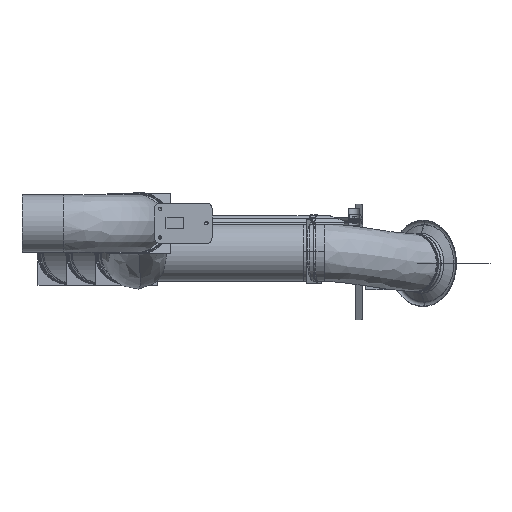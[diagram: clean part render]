
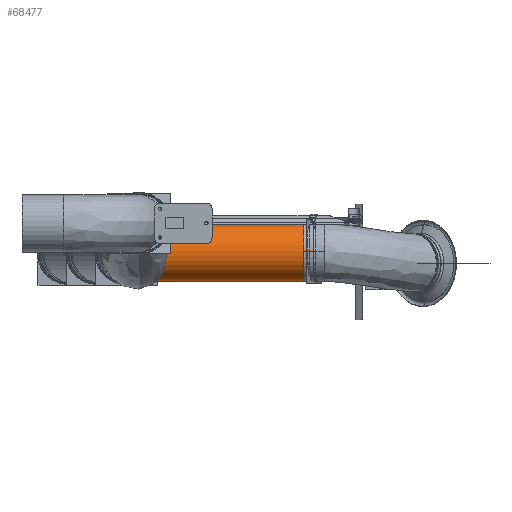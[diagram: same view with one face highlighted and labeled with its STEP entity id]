
A CAD part, left-side view. The second image highlights one B-rep face of the part: STEP entity #68477.
In plain terms, the highlighted free-form (B-spline) face has degree [3, 3] with [7, 6] control points.
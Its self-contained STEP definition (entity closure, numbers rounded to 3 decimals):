
#67454=CARTESIAN_POINT('',(1152.215,-562.358,-97.));
#67455=DIRECTION('',(0.,1.,0.));
#67456=DIRECTION('',(-0.051,0.,-0.999));
#67457=AXIS2_PLACEMENT_3D('',#67454,#67455,#67456);
#67462=CARTESIAN_POINT('',(1147.068,-562.358,
-196.867));
#67463=CARTESIAN_POINT('',(1147.068,-485.691,
-196.867));
#67464=CARTESIAN_POINT('',(1147.068,-332.358,
-196.867));
#67465=CARTESIAN_POINT('',(1147.068,-102.358,
-196.867));
#67466=CARTESIAN_POINT('',(1147.068,50.975,
-196.867));
#67467=CARTESIAN_POINT('',(1147.068,127.642,
-196.867));
#67480=CARTESIAN_POINT('',(1157.361,-562.358,
2.867));
#67481=CARTESIAN_POINT('',(1157.361,-485.691,
2.867));
#67482=CARTESIAN_POINT('',(1157.361,-332.358,
2.867));
#67483=CARTESIAN_POINT('',(1157.361,-102.358,
2.867));
#67484=CARTESIAN_POINT('',(1157.361,50.975,2.867));
#67485=CARTESIAN_POINT('',(1157.361,127.642,2.867));
#67562=CARTESIAN_POINT('',(1152.215,127.642,-97.));
#67563=DIRECTION('',(0.,1.,0.));
#67564=DIRECTION('',(-0.051,0.,-0.999));
#67565=AXIS2_PLACEMENT_3D('',#67562,#67563,#67564);
#68102=CARTESIAN_POINT('',(1157.361,-562.358,
2.867));
#68103=CARTESIAN_POINT('',(1147.068,-562.358,
-196.867));
#68104=VERTEX_POINT('',#68102);
#68105=VERTEX_POINT('',#68103);
#68106=CARTESIAN_POINT('',(1157.361,127.642,2.867));
#68107=CARTESIAN_POINT('',(1147.068,127.642,
-196.867));
#68108=VERTEX_POINT('',#68106);
#68109=VERTEX_POINT('',#68107);
#68425=CARTESIAN_POINT('',(1153.349,-576.158,
-196.994));
#68426=CARTESIAN_POINT('',(1153.349,-571.558,
-196.994));
#68427=CARTESIAN_POINT('',(1153.349,-336.958,
-196.994));
#68428=CARTESIAN_POINT('',(1153.349,-97.758,
-196.994));
#68429=CARTESIAN_POINT('',(1153.349,136.842,
-196.994));
#68430=CARTESIAN_POINT('',(1153.349,141.442,
-196.994));
#68431=CARTESIAN_POINT('',(1091.813,-576.158,
-197.692));
#68432=CARTESIAN_POINT('',(1091.813,-571.558,
-197.692));
#68433=CARTESIAN_POINT('',(1091.813,-336.958,
-197.692));
#68434=CARTESIAN_POINT('',(1091.813,-97.758,
-197.692));
#68435=CARTESIAN_POINT('',(1091.813,136.842,
-197.692));
#68436=CARTESIAN_POINT('',(1091.813,141.442,
-197.692));
#68437=CARTESIAN_POINT('',(1049.18,-576.158,
-153.312));
#68438=CARTESIAN_POINT('',(1049.18,-571.558,
-153.312));
#68439=CARTESIAN_POINT('',(1049.18,-336.958,
-153.312));
#68440=CARTESIAN_POINT('',(1049.18,-97.758,
-153.312));
#68441=CARTESIAN_POINT('',(1049.18,136.842,
-153.312));
#68442=CARTESIAN_POINT('',(1049.18,141.442,
-153.312));
#68443=CARTESIAN_POINT('',(1052.347,-576.158,
-91.854));
#68444=CARTESIAN_POINT('',(1052.347,-571.558,
-91.854));
#68445=CARTESIAN_POINT('',(1052.347,-336.958,
-91.854));
#68446=CARTESIAN_POINT('',(1052.347,-97.758,
-91.854));
#68447=CARTESIAN_POINT('',(1052.347,136.842,
-91.854));
#68448=CARTESIAN_POINT('',(1052.347,141.442,
-91.854));
#68449=CARTESIAN_POINT('',(1055.514,-576.158,
-30.395));
#68450=CARTESIAN_POINT('',(1055.514,-571.558,
-30.395));
#68451=CARTESIAN_POINT('',(1055.514,-336.958,
-30.395));
#68452=CARTESIAN_POINT('',(1055.514,-97.758,
-30.395));
#68453=CARTESIAN_POINT('',(1055.514,136.842,
-30.395));
#68454=CARTESIAN_POINT('',(1055.514,141.442,
-30.395));
#68455=CARTESIAN_POINT('',(1102.483,-576.158,
9.367));
#68456=CARTESIAN_POINT('',(1102.483,-571.558,
9.367));
#68457=CARTESIAN_POINT('',(1102.483,-336.958,
9.367));
#68458=CARTESIAN_POINT('',(1102.483,-97.758,
9.367));
#68459=CARTESIAN_POINT('',(1102.483,136.842,9.367));
#68460=CARTESIAN_POINT('',(1102.483,141.442,9.367));
#68461=CARTESIAN_POINT('',(1163.622,-576.158,
2.347));
#68462=CARTESIAN_POINT('',(1163.622,-571.558,
2.347));
#68463=CARTESIAN_POINT('',(1163.622,-336.958,
2.347));
#68464=CARTESIAN_POINT('',(1163.622,-97.758,
2.347));
#68465=CARTESIAN_POINT('',(1163.622,136.842,2.347));
#68466=CARTESIAN_POINT('',(1163.622,141.442,2.347));
#68467=(BOUNDED_SURFACE()B_SPLINE_SURFACE(3,3,((#68425,#68426,#68427,#68428,
#68429,#68430),(#68431,#68432,#68433,#68434,#68435,#68436),(#68437,#68438,
#68439,#68440,#68441,#68442),(#68443,#68444,#68445,#68446,#68447,#68448),
(#68449,#68450,#68451,#68452,#68453,#68454),(#68455,#68456,#68457,#68458,#68459,
#68460),(#68461,#68462,#68463,#68464,#68465,#68466)),.UNSPECIFIED.,.F.,.F.,.F.)B_SPLINE_SURFACE_WITH_KNOTS((4,3,4),(4,1,1,4),(0.,1.,2.),(-0.02,0.,1.,
1.02),.UNSPECIFIED.)GEOMETRIC_REPRESENTATION_ITEM()RATIONAL_B_SPLINE_SURFACE((
(1.187,1.187,1.187,1.187,
1.187,1.187),(0.938,0.938,
0.938,0.938,0.938,0.938),(
0.938,0.938,0.938,0.938,
0.938,0.938),(1.187,1.187,
1.187,1.187,1.187,1.187),(
0.938,0.938,0.938,0.938,
0.938,0.938),(0.938,0.938,
0.938,0.938,0.938,0.938),(
1.187,1.187,1.187,1.187,
1.187,1.187)))REPRESENTATION_ITEM('')SURFACE());
#68468=ORIENTED_EDGE('',*,*,#68412,.F.);
#68470=ORIENTED_EDGE('',*,*,#68469,.T.);
#68472=ORIENTED_EDGE('',*,*,#68471,.T.);
#68474=ORIENTED_EDGE('',*,*,#68473,.F.);
#68475=EDGE_LOOP('',(#68468,#68470,#68472,#68474));
#68476=FACE_OUTER_BOUND('',#68475,.F.);
#67458=CIRCLE('',#67457,100.);
#67468=B_SPLINE_CURVE_WITH_KNOTS('',3,(#67462,#67463,#67464,#67465,#67466,
#67467),.UNSPECIFIED.,.F.,.F.,(4,1,1,4),(0.,0.333,
0.667,1.),.UNSPECIFIED.);
#67486=B_SPLINE_CURVE_WITH_KNOTS('',3,(#67480,#67481,#67482,#67483,#67484,
#67485),.UNSPECIFIED.,.F.,.F.,(4,1,1,4),(0.,0.333,
0.667,1.),.UNSPECIFIED.);
#67566=CIRCLE('',#67565,100.);
#68412=EDGE_CURVE('',#68105,#68104,#67458,.T.);
#68469=EDGE_CURVE('',#68105,#68109,#67468,.T.);
#68471=EDGE_CURVE('',#68109,#68108,#67566,.T.);
#68473=EDGE_CURVE('',#68104,#68108,#67486,.T.);
#68477=ADVANCED_FACE('',(#68476),#68467,.T.);
